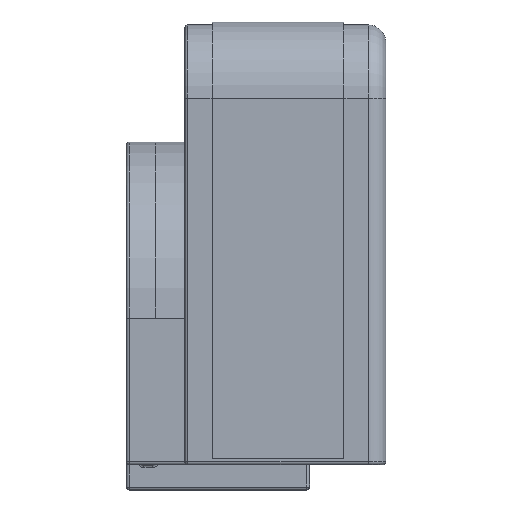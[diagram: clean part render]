
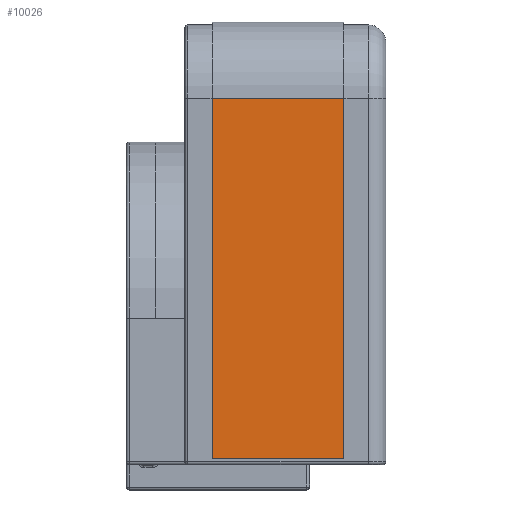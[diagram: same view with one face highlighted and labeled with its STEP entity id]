
A CAD part, left-side view. The second image highlights one B-rep face of the part: STEP entity #10026.
In plain terms, the highlighted planar face has unit normal (-1, 0, 0).
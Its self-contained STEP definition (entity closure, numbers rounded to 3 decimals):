
#264 = DIRECTION ( 'NONE',  ( 0., 0., -1. ) ) ;
#315 = DIRECTION ( 'NONE',  ( 0., -1., 0. ) ) ;
#623 = EDGE_LOOP ( 'NONE', ( #2917, #4271, #4710, #7070 ) ) ;
#1041 = CARTESIAN_POINT ( 'NONE',  ( -20.2, 0.649, 1.65 ) ) ;
#1136 = AXIS2_PLACEMENT_3D ( 'NONE', #3509, #2427, #264 ) ;
#1799 = CARTESIAN_POINT ( 'NONE',  ( -20.2, 0.649, -22.95 ) ) ;
#2019 = EDGE_CURVE ( 'NONE', #8003, #10626, #11691, .T. ) ;
#2427 = DIRECTION ( 'NONE',  ( 1., 0., 0. ) ) ;
#2917 = ORIENTED_EDGE ( 'NONE', *, *, #10988, .T. ) ;
#3133 = CARTESIAN_POINT ( 'NONE',  ( -20.2, -8.351, 1.65 ) ) ;
#3236 = CARTESIAN_POINT ( 'NONE',  ( -20.2, -8.351, 1.65 ) ) ;
#3280 = EDGE_CURVE ( 'NONE', #4466, #8003, #5256, .T. ) ;
#3300 = VECTOR ( 'NONE', #9701, 1000. ) ;
#3509 = CARTESIAN_POINT ( 'NONE',  ( -20.2, 0.649, 1.65 ) ) ;
#3836 = CARTESIAN_POINT ( 'NONE',  ( -20.2, 0.649, -22.95 ) ) ;
#4271 = ORIENTED_EDGE ( 'NONE', *, *, #2019, .F. ) ;
#4466 = VERTEX_POINT ( 'NONE', #3836 ) ;
#4710 = ORIENTED_EDGE ( 'NONE', *, *, #3280, .F. ) ;
#5256 = LINE ( 'NONE', #9374, #3300 ) ;
#7070 = ORIENTED_EDGE ( 'NONE', *, *, #7867, .T. ) ;
#7867 = EDGE_CURVE ( 'NONE', #4466, #12672, #12039, .T. ) ;
#7990 = DIRECTION ( 'NONE',  ( 0., -1., 0. ) ) ;
#8003 = VERTEX_POINT ( 'NONE', #1041 ) ;
#9061 = LINE ( 'NONE', #3236, #10224 ) ;
#9374 = CARTESIAN_POINT ( 'NONE',  ( -20.2, 0.649, 1.65 ) ) ;
#9646 = PLANE ( 'NONE',  #1136 ) ;
#9701 = DIRECTION ( 'NONE',  ( 0., 0., 1. ) ) ;
#9833 = VECTOR ( 'NONE', #315, 1000. ) ;
#10026 = ADVANCED_FACE ( 'NONE', ( #12728 ), #9646, .F. ) ;
#10224 = VECTOR ( 'NONE', #13339, 1000. ) ;
#10626 = VERTEX_POINT ( 'NONE', #3133 ) ;
#10893 = CARTESIAN_POINT ( 'NONE',  ( -20.2, -8.351, -22.95 ) ) ;
#10988 = EDGE_CURVE ( 'NONE', #12672, #10626, #9061, .T. ) ;
#11691 = LINE ( 'NONE', #12772, #9833 ) ;
#12039 = LINE ( 'NONE', #1799, #12369 ) ;
#12369 = VECTOR ( 'NONE', #7990, 1000. ) ;
#12672 = VERTEX_POINT ( 'NONE', #10893 ) ;
#12728 = FACE_OUTER_BOUND ( 'NONE', #623, .T. ) ;
#12772 = CARTESIAN_POINT ( 'NONE',  ( -20.2, 0.649, 1.65 ) ) ;
#13339 = DIRECTION ( 'NONE',  ( 0., 0., 1. ) ) ;
